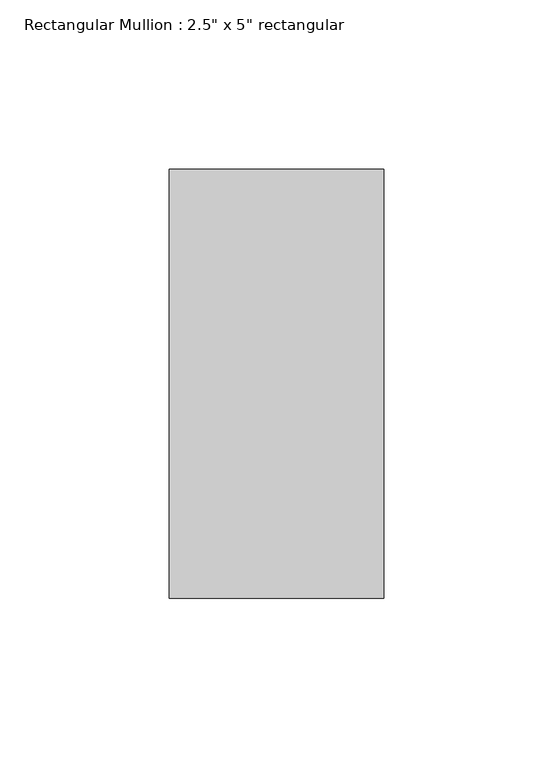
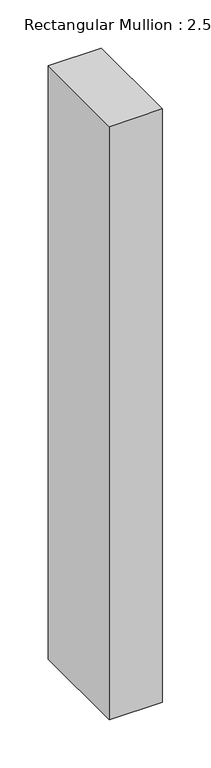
"""IFC4 building model written with IfcOpenShell, lengths in millimetres: member geometry."""

from ifc_helpers import new_model, si_unit, frame, origin, place, context, project, spatial, polyline, outline, extrude, source, transform, mapped, element, save


def member_705e9429(model_context):
    return source(origin(), model_context, "Body", "SweptSolid", [
        extrude(outline(polyline([(31.75, 63.5), (31.75, -63.5), (-31.75, -63.5), (-31.75, 63.5), (31.75, 63.5)])), frame((0.0, 0.0, -751.5141945), z_axis=(0.0, 0.0, 1.0), x_axis=(1.0, 0.0, 0.0)), (0.0, 0.0, 1.0), 751.5141945),
    ])


if __name__ == "__main__":
    model = new_model("IFC4")
    model_context = context("Model", 3, world=origin())
    ifc_project = project(units=[si_unit("LENGTHUNIT", "METRE", prefix="MILLI")], contexts=[model_context])
    site = spatial("IfcSite", under=ifc_project)
    building = spatial("IfcBuilding", under=site)
    placement = place(None, origin())
    member_shape = member_705e9429(model_context)
    element("IfcMember", 1, ObjectType="Rectangular Mullion : 2.5\" x 5\" rectangular", at=placement, inside=building, context=model_context, shape_type="MappedRepresentation", body=[
        mapped(member_shape, transform((0.0, 0.0, 0.0), x_axis=(1.0, 0.0, 0.0), y_axis=(0.0, 1.0, 0.0), z_axis=(0.0, 0.0, 1.0))),
    ])
    save(model, "model.ifc")
